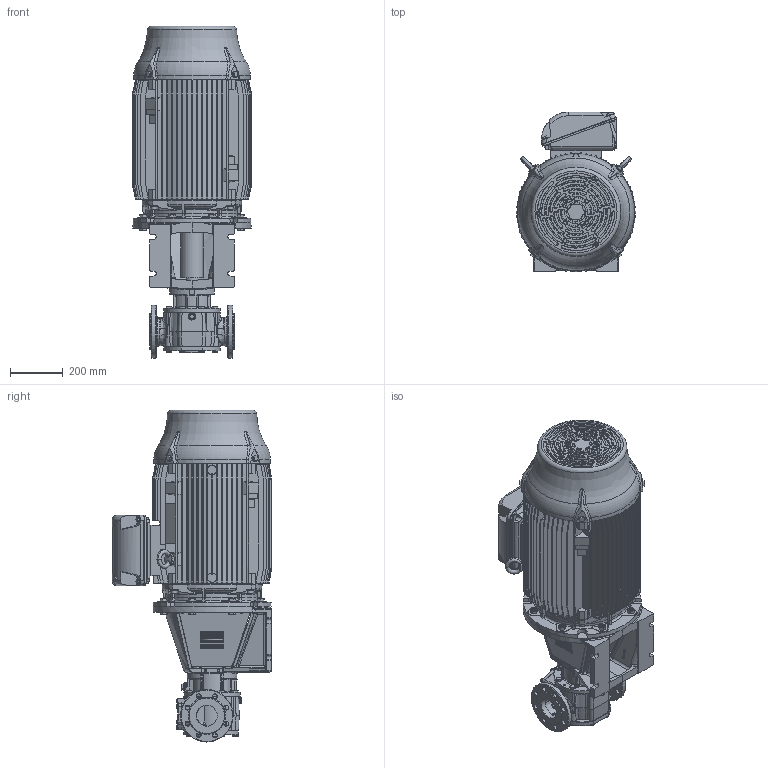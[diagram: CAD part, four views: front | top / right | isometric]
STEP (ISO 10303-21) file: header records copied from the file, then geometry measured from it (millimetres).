
FILE_DESCRIPTION(/* description */ (''),/* implementation_level */ '2;1');
FILE_NAME(/* name */ 'C:\V\JPP\Designs\GEAR PUMPS\PRODUCT ENGINEERING\EUROPE\TG BLOC\TG BLOC_58-80_G2_O_NRV-_225-STEP.stp',/* time_stamp */ '2021-03-19T10:31:11+01:00',/* author */ ('A77THR'),/* organization */ (''),/* preprocessor_version */ 'ST-DEVELOPER v18.1',/* originating_system */ 'Autodesk Inventor 2020',/* authorisation */ '');
FILE_SCHEMA (('AUTOMOTIVE_DESIGN { 1 0 10303 214 3 1 1 }'));
Length unit declared in the file: millimetre
Products named in the file (1): TG BLOC_58-80_G2_O_NRV-_225
Bounding box: 455 x 607.99 x 1262.96 mm (x, y, z)
Volume: 117664381.9 mm3; surface area: 4580107.7 mm2
Topology: 1 solids, 1 shells, 4533 faces, 12040 edges, 7690 vertices
Faces by surface type: plane 2041, cone 940, bspline 766, cylinder 634, torus 113, sphere 39
Full cylindrical faces by diameter (mm): 4.5 x4, 4.917 x3, 6.3 x1, 6.647 x1, 7.323 x8, 8 x4, 9 x8, 10 x8, 10.106 x7, 10.2 x2, 11.053 x4, 11.4 x8, 11.445 x2, 12 x4, 13 x1, 13.157 x2, 13.2 x2, 13.835 x8, 14 x8, 14.8 x4, 15.011 x2, 17.2 x20, 17.5 x1, 18 x18, 18.1 x8, 19 x2, 20 x2, 20.955 x1, 21 x6, 21.2 x1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
Entity records: 193686 total; most frequent: CARTESIAN_POINT 82490, ORIENTED_EDGE 23942, DIRECTION 20489, EDGE_CURVE 11971, AXIS2_PLACEMENT_3D 7739, VERTEX_POINT 7686, LINE 5011, VECTOR 5011
